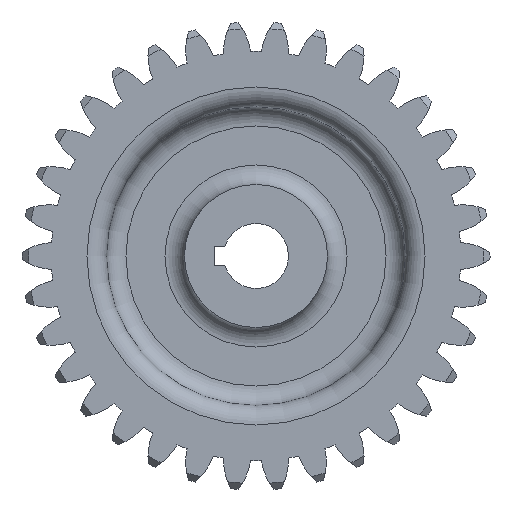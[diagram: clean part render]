
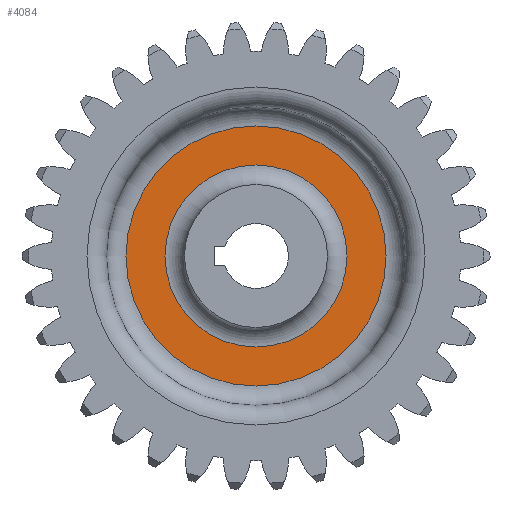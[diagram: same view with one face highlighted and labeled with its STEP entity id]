
A CAD part, left-side view. The second image highlights one B-rep face of the part: STEP entity #4084.
In plain terms, the highlighted planar face has unit normal (-1, 0, 0).
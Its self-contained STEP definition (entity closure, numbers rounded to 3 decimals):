
#25=PLANE($,#4662);
#672=CIRCLE($,#4661,14.);
#673=CIRCLE($,#4663,20.);
#761=FACE_BOUND($,#1217,.T.);
#982=FACE_OUTER_BOUND($,#1216,.T.);
#1216=EDGE_LOOP($,(#3576));
#1217=EDGE_LOOP($,(#3577));
#1795=VERTEX_POINT($,#7742);
#1796=VERTEX_POINT($,#7745);
#2437=EDGE_CURVE($,#1795,#1795,#672,.T.);
#2438=EDGE_CURVE($,#1796,#1796,#673,.T.);
#3576=ORIENTED_EDGE($,*,*,#2438,.F.);
#3577=ORIENTED_EDGE($,*,*,#2437,.F.);
#4084=ADVANCED_FACE($,(#982,#761),#25,.T.);
#4661=AXIS2_PLACEMENT_3D($,#7743,#5956,#5957);
#4662=AXIS2_PLACEMENT_3D($,#7744,#5958,#5959);
#4663=AXIS2_PLACEMENT_3D($,#7746,#5960,#5961);
#5956=DIRECTION('center_axis',(-1.,0.,0.));
#5957=DIRECTION('ref_axis',(0.,-1.,0.));
#5958=DIRECTION('center_axis',(-1.,0.,0.));
#5959=DIRECTION('ref_axis',(0.,0.,1.));
#5960=DIRECTION('center_axis',(1.,0.,0.));
#5961=DIRECTION('ref_axis',(0.,-1.,0.));
#7742=CARTESIAN_POINT('',(6.,14.,0.));
#7743=CARTESIAN_POINT('Origin',(6.,0.,0.));
#7744=CARTESIAN_POINT('Origin',(6.,23.,0.));
#7745=CARTESIAN_POINT('',(6.,20.,0.));
#7746=CARTESIAN_POINT('Origin',(6.,0.,0.));
